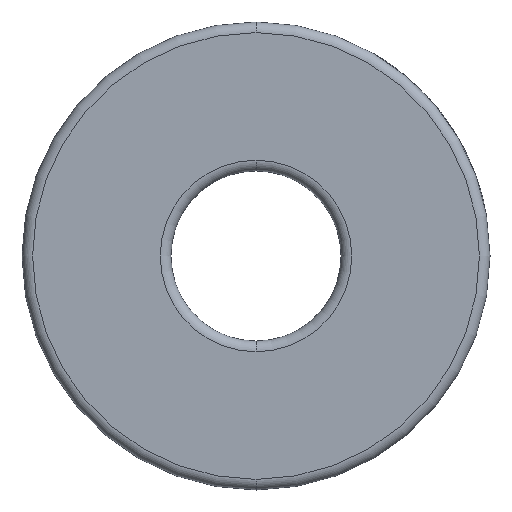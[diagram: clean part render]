
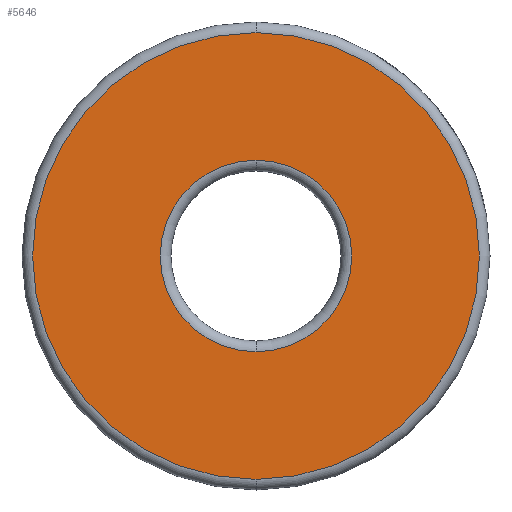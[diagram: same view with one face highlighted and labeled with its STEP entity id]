
A CAD part, front view. The second image highlights one B-rep face of the part: STEP entity #5646.
In plain terms, the highlighted planar face has unit normal (0, -1, 0).
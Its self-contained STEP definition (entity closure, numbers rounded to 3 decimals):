
#49 = DIRECTION ( 'NONE',  ( 0., -1., 0. ) ) ;
#288 = DIRECTION ( 'NONE',  ( 0., -1., 0. ) ) ;
#347 = CARTESIAN_POINT ( 'NONE',  ( 0., 0., -10.5 ) ) ;
#483 = FACE_OUTER_BOUND ( 'NONE', #5131, .T. ) ;
#522 = VERTEX_POINT ( 'NONE', #347 ) ;
#936 = ORIENTED_EDGE ( 'NONE', *, *, #5832, .T. ) ;
#1107 = PLANE ( 'NONE',  #4998 ) ;
#1304 = CIRCLE ( 'NONE', #6548, 4.5 ) ;
#1328 = VERTEX_POINT ( 'NONE', #5941 ) ;
#1657 = DIRECTION ( 'NONE',  ( 0., 1., 0. ) ) ;
#2041 = DIRECTION ( 'NONE',  ( 0., 1., 0. ) ) ;
#2049 = FACE_BOUND ( 'NONE', #2360, .T. ) ;
#2360 = EDGE_LOOP ( 'NONE', ( #3638, #5036 ) ) ;
#2602 = CARTESIAN_POINT ( 'NONE',  ( 0., 0., 4.5 ) ) ;
#2658 = DIRECTION ( 'NONE',  ( 0., 1., 0. ) ) ;
#2664 = CARTESIAN_POINT ( 'NONE',  ( 0., 0., 0. ) ) ;
#2967 = VERTEX_POINT ( 'NONE', #3279 ) ;
#3137 = AXIS2_PLACEMENT_3D ( 'NONE', #3372, #288, #3878 ) ;
#3151 = CARTESIAN_POINT ( 'NONE',  ( 0., 0., 0. ) ) ;
#3279 = CARTESIAN_POINT ( 'NONE',  ( 0., 0., 10.5 ) ) ;
#3339 = ORIENTED_EDGE ( 'NONE', *, *, #4029, .T. ) ;
#3372 = CARTESIAN_POINT ( 'NONE',  ( 0., 0., 0. ) ) ;
#3638 = ORIENTED_EDGE ( 'NONE', *, *, #5869, .T. ) ;
#3647 = DIRECTION ( 'NONE',  ( 0., 0., 1. ) ) ;
#3878 = DIRECTION ( 'NONE',  ( 0., 0., 1. ) ) ;
#4029 = EDGE_CURVE ( 'NONE', #522, #2967, #5962, .T. ) ;
#4159 = AXIS2_PLACEMENT_3D ( 'NONE', #3151, #49, #3647 ) ;
#4859 = AXIS2_PLACEMENT_3D ( 'NONE', #5088, #2041, #5607 ) ;
#4998 = AXIS2_PLACEMENT_3D ( 'NONE', #2664, #1657, #5230 ) ;
#5036 = ORIENTED_EDGE ( 'NONE', *, *, #5793, .T. ) ;
#5088 = CARTESIAN_POINT ( 'NONE',  ( 0., 0., 0. ) ) ;
#5131 = EDGE_LOOP ( 'NONE', ( #936, #3339 ) ) ;
#5219 = CIRCLE ( 'NONE', #4159, 10.5 ) ;
#5230 = DIRECTION ( 'NONE',  ( 0., 0., 1. ) ) ;
#5247 = VERTEX_POINT ( 'NONE', #2602 ) ;
#5391 = CIRCLE ( 'NONE', #4859, 4.5 ) ;
#5607 = DIRECTION ( 'NONE',  ( 0., 0., 1. ) ) ;
#5646 = ADVANCED_FACE ( 'NONE', ( #2049, #483 ), #1107, .F. ) ;
#5720 = CARTESIAN_POINT ( 'NONE',  ( 0., 0., 0. ) ) ;
#5793 = EDGE_CURVE ( 'NONE', #1328, #5247, #5391, .T. ) ;
#5832 = EDGE_CURVE ( 'NONE', #2967, #522, #5219, .T. ) ;
#5869 = EDGE_CURVE ( 'NONE', #5247, #1328, #1304, .T. ) ;
#5941 = CARTESIAN_POINT ( 'NONE',  ( 0., 0., -4.5 ) ) ;
#5962 = CIRCLE ( 'NONE', #3137, 10.5 ) ;
#6223 = DIRECTION ( 'NONE',  ( 0., 0., 1. ) ) ;
#6548 = AXIS2_PLACEMENT_3D ( 'NONE', #5720, #2658, #6223 ) ;
